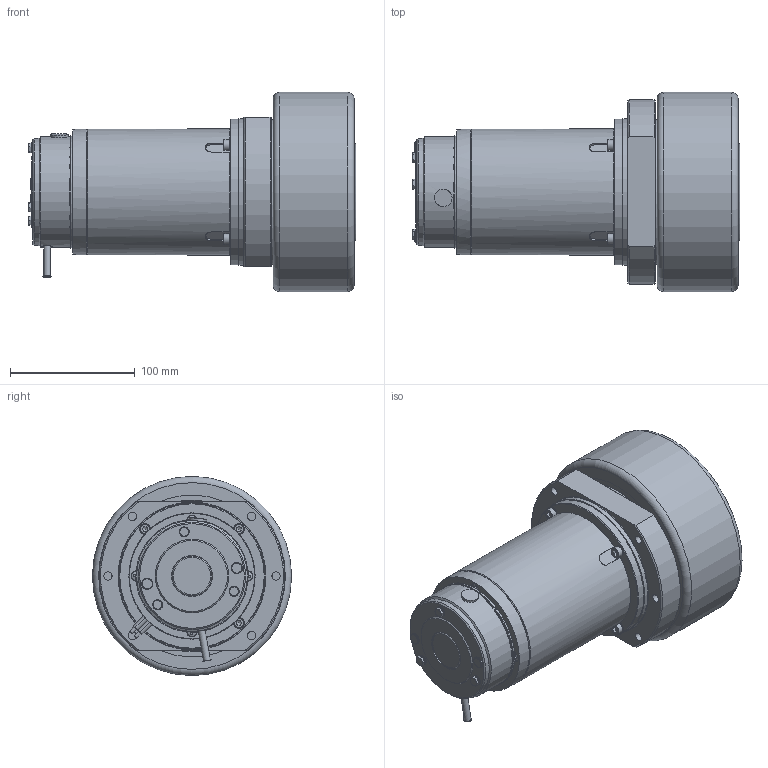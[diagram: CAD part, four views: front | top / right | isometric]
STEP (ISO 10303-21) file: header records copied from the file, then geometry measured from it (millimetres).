
FILE_DESCRIPTION(/* description */ (''),/* implementation_level */ '2;1');
FILE_NAME(/* name */ 'Z:\SITO WEB 2023\Dual Drive\MRH116\MRH116 DC D.160 mm\MRH116.DC.D160.stp',/* time_stamp */ '2023-09-21T12:33:25+02:00',/* author */ ('cad3'),/* organization */ (''),/* preprocessor_version */ 'ST-DEVELOPER v18.1',/* originating_system */ 'Autodesk Inventor 2022',/* authorisation */ '');
FILE_SCHEMA (('AUTOMOTIVE_DESIGN { 1 0 10303 214 3 1 1 }'));
Products named in the file (1): MRH116.DC.D160
Bounding box: 263.3 x 160 x 160 mm (x, y, z)
Volume: 1747268.8 mm3; surface area: 388592.7 mm2
Topology: 5 solids, 27 shells, 4572 faces, 12493 edges, 7870 vertices
Faces by surface type: plane 3179, cylinder 763, cone 335, torus 145, bspline 121, sphere 29
Full cylindrical faces by diameter (mm): 1.7 x2, 2 x2, 3 x2, 3.3 x4, 3.5 x2, 4 x13, 4.134 x4, 4.2 x11, 4.3 x3, 4.917 x9, 5 x4, 5.2 x10, 5.3 x4, 5.5 x5, 5.88 x3, 5.917 x3, 6 x9, 6.5 x16, 6.647 x6, 8 x14, 8.4 x5, 8.5 x8, 9 x5, 10 x16, 10.5 x10, 10.8 x1, 11 x3, 11.8 x1, 12 x3, 12.5 x1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
Entity records: 158063 total; most frequent: CARTESIAN_POINT 36418, ORIENTED_EDGE 24900, DIRECTION 24779, EDGE_CURVE 12450, AXIS2_PLACEMENT_3D 8755, VERTEX_POINT 7869, LINE 7269, VECTOR 7269
